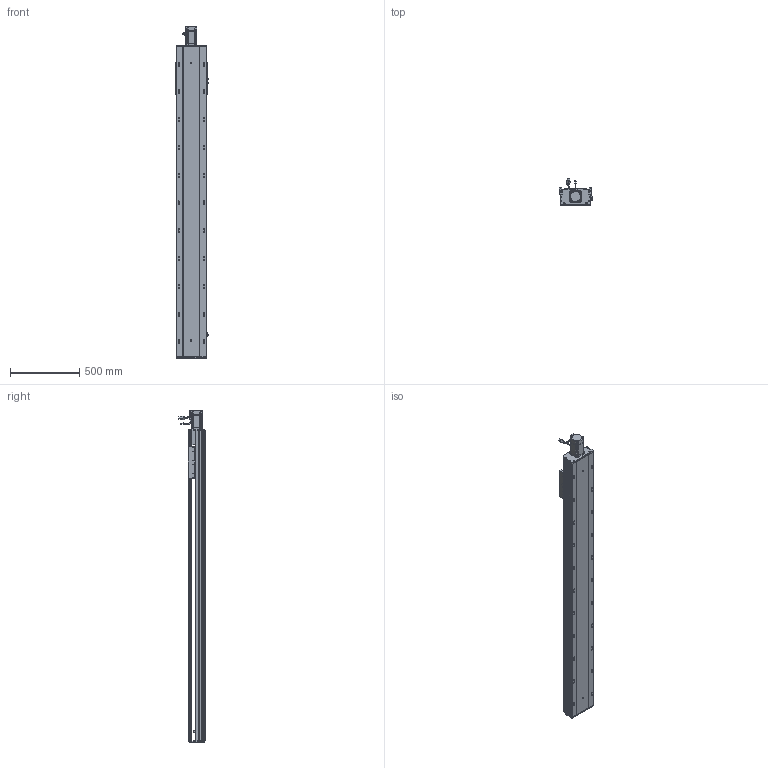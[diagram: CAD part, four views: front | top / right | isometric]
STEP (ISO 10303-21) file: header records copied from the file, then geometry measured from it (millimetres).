
FILE_DESCRIPTION (( 'STEP AP203' ), '1' );
FILE_NAME ('RY220-L2525-800-MK-邧嶺.SLDASM_1800.step', '2022-08-06T08:58:21', ( '' ), ( '' ), 'SwSTEP 2.0', 'SolidWorks 2016', '' );
FILE_SCHEMA (( 'CONFIG_CONTROL_DESIGN' ));
Length unit declared in the file: millimetre
Products named in the file (12): RY220菁釱MK-800-邧嶺_1800; 怢湛750W_ECMA-CX0807ES; RY220-800-奻裔啣-MK_1800; RY220电机支撑座FK20（PCD90M6）; 覜茼ん672; RY220-L2525-800-MK-邧嶺.SLDASM_1800; 滅袉蝶18-15; RY220-俋离672覜茼んえ; RY220ヶ裔啣; RY220半封闭25-32螺母铝滑块; 滅袉蝶18-12; RY220綴裔啣
Assembly tree (15 placements, depth 2):
  RY220-L2525-800-MK-邧嶺.SLDASM_1800
    RY220菁釱MK-800-邧嶺_1800
    RY220电机支撑座FK20（PCD90M6）
    怢湛750W_ECMA-CX0807ES
    滅袉蝶18-12  x2
    RY220ヶ裔啣
    RY220綴裔啣
    覜茼ん672  x3
    RY220半封闭25-32螺母铝滑块
    RY220-800-奻裔啣-MK_1800
    RY220-俋离672覜茼んえ
    滅袉蝶18-15  x2
Bounding box: 238.7 x 187.27 x 2390.3 mm (x, y, z)
Volume: 17728345.2 mm3; surface area: 5182798 mm2
Topology: 16 solids, 16 shells, 2394 faces, 6642 edges, 4164 vertices
Faces by surface type: cylinder 1112, plane 915, cone 305, bspline 36, sphere 16, torus 10
Entity records: 78808 total; most frequent: CARTESIAN_POINT 22227, ORIENTED_EDGE 11712, DIRECTION 11207, EDGE_CURVE 5856, AXIS2_PLACEMENT_3D 3987, VERTEX_POINT 3820, LINE 3233, VECTOR 3233
